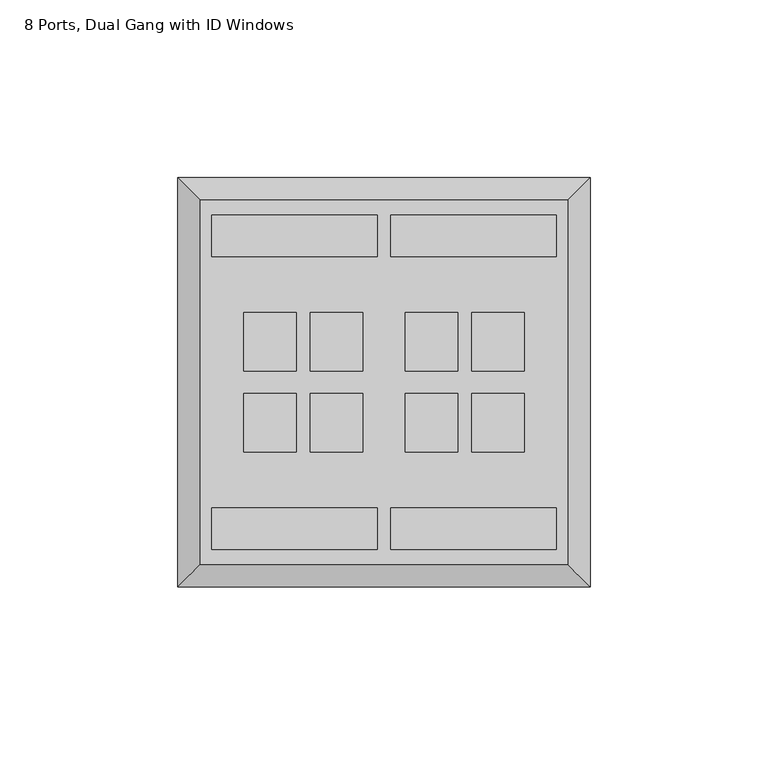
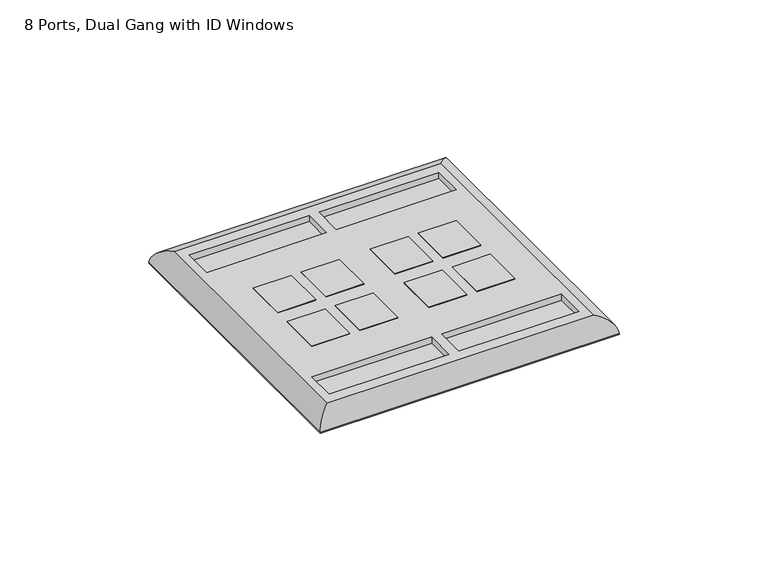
"""IFC4 building model written with IfcOpenShell, lengths in millimetres: electric appliance geometry, Data_Device-Work_Area-Leviton-QuickPort-Wallplate : 8 Ports, Dual Gang with ID Windows."""

from ifc_helpers import new_model, si_unit, frame, origin, origin_with_axes, place, context, project, spatial, polyline, ellipse_curve, outline, extrude, source, transform, mapped, element, save
from ifc_brep_helpers import plane_surface, cylinder_surface, advanced_brep


def electric_appliance_8_ports_dual_gang_with_id_windows_ed2c4f9c(model_context):
    return source(origin(), model_context, "Body", "SolidModel", [
        extrude(outline(polyline([(-29.0195, 27.813), (-29.0195, 11.303), (-43.7515, 11.303), (-43.7515, 27.813), (-29.0195, 27.813)])), origin_with_axes(), (0.0, 0.0, 1.0), 6.35),
        extrude(outline(polyline([(-29.0195, -11.43), (-43.7515, -11.43), (-43.7515, 5.08), (-29.0195, 5.08), (-29.0195, -11.43)])), origin_with_axes(), (0.0, 0.0, 1.0), 6.35),
        extrude(outline(polyline([(-2.2987, 27.813), (-2.2987, 11.303), (-17.0307, 11.303), (-17.0307, 27.813), (-2.2987, 27.813)])), origin_with_axes(), (0.0, 0.0, 1.0), 6.35),
        extrude(outline(polyline([(-2.2987, -11.43), (-17.0307, -11.43), (-17.0307, 5.08), (-2.2987, 5.08), (-2.2987, -11.43)])), origin_with_axes(), (0.0, 0.0, 1.0), 6.35),
        extrude(outline(polyline([(-47.6885, 27.813), (-47.6885, 11.303), (-62.4205, 11.303), (-62.4205, 27.813), (-47.6885, 27.813)])), origin_with_axes(), (0.0, 0.0, 1.0), 6.35),
        extrude(outline(polyline([(-47.6885, -11.43), (-62.4205, -11.43), (-62.4205, 5.08), (-47.6885, 5.08), (-47.6885, -11.43)])), origin_with_axes(), (0.0, 0.0, 1.0), 6.35),
        extrude(outline(polyline([(16.3703, 27.813), (16.3703, 11.303), (1.6383, 11.303), (1.6383, 27.813), (16.3703, 27.813)])), origin_with_axes(), (0.0, 0.0, 1.0), 6.35),
        extrude(outline(polyline([(16.3703, -11.43), (1.6383, -11.43), (1.6383, 5.08), (16.3703, 5.08), (16.3703, -11.43)])), origin_with_axes(), (0.0, 0.0, 1.0), 6.35),
        advanced_brep(
        [(28.575, -42.9895, 6.35), (28.575, 59.3725, 6.35), (-74.6252, 59.3725, 6.35), (-74.6252, -42.9895, 6.35), (-71.44004, 55.1815, 6.35), (-24.95804, 55.1815, 6.35), (-24.95804, 43.4975, 6.35), (-71.44004, 43.4975, 6.35), (-21.09216, 43.4975, 6.35), (-21.09216, 55.1815, 6.35), (25.38984, 55.1815, 6.35), (25.38984, 43.4975, 6.35), (-43.7515, 27.813, 6.35), (-29.0195, 27.813, 6.35), (-29.0195, 11.303, 6.35), (-43.7515, 11.303, 6.35), (-43.7515, 5.08, 6.35), (-29.0195, 5.08, 6.35), (-29.0195, -11.43, 6.35), (-43.7515, -11.43, 6.35), (-17.0307, 27.813, 6.35), (-2.2987, 27.813, 6.35), (-2.2987, 11.303, 6.35), (-17.0307, 11.303, 6.35), (-17.0307, 5.08, 6.35), (-2.2987, 5.08, 6.35), (-2.2987, -11.43, 6.35), (-17.0307, -11.43, 6.35), (-62.4205, 27.813, 6.35), (-47.6885, 27.813, 6.35), (-47.6885, 11.303, 6.35), (-62.4205, 11.303, 6.35), (-62.4205, 5.08, 6.35), (-47.6885, 5.08, 6.35), (-47.6885, -11.43, 6.35), (-62.4205, -11.43, 6.35), (1.6383, 27.813, 6.35), (16.3703, 27.813, 6.35), (16.3703, 11.303, 6.35), (1.6383, 11.303, 6.35), (1.6383, 5.08, 6.35), (16.3703, 5.08, 6.35), (16.3703, -11.43, 6.35), (1.6383, -11.43, 6.35), (-71.44004, -27.1145, 6.35), (-24.95804, -27.1145, 6.35), (-24.95804, -38.7985, 6.35), (-71.44004, -38.7985, 6.35), (-21.09216, -27.1145, 6.35), (25.38984, -27.1145, 6.35), (25.38984, -38.7985, 6.35), (-21.09216, -38.7985, 6.35), (34.925, 65.7225, 0.0), (34.925, -49.3395, 0.0), (-80.9752, -49.3395, 0.0), (-80.9752, 65.7225, 0.0), (-29.0195, 27.813, 0.0), (-43.7515, 27.813, 0.0), (-43.7515, 11.303, 0.0), (-29.0195, 11.303, 0.0), (-29.0195, 5.08, 0.0), (-43.7515, 5.08, 0.0), (-43.7515, -11.43, 0.0), (-29.0195, -11.43, 0.0), (-2.2987, 27.813, 0.0), (-17.0307, 27.813, 0.0), (-17.0307, 11.303, 0.0), (-2.2987, 11.303, 0.0), (-2.2987, 5.08, 0.0), (-17.0307, 5.08, 0.0), (-17.0307, -11.43, 0.0), (-2.2987, -11.43, 0.0), (-47.6885, 27.813, 0.0), (-62.4205, 27.813, 0.0), (-62.4205, 11.303, 0.0), (-47.6885, 11.303, 0.0), (-47.6885, 5.08, 0.0), (-62.4205, 5.08, 0.0), (-62.4205, -11.43, 0.0), (-47.6885, -11.43, 0.0), (16.3703, 27.813, 0.0), (1.6383, 27.813, 0.0), (1.6383, 11.303, 0.0), (16.3703, 11.303, 0.0), (16.3703, 5.08, 0.0), (1.6383, 5.08, 0.0), (1.6383, -11.43, 0.0), (16.3703, -11.43, 0.0), (-80.9752, 65.7225, 0.254), (34.925, 65.7225, 0.254), (-80.9752, -49.3395, 0.254), (34.925, -49.3395, 0.254), (-24.95804, 55.1815, 3.81), (-71.44004, 55.1815, 3.81), (-71.44004, 43.4975, 3.81), (-24.95804, 43.4975, 3.81), (-21.09216, 55.1815, 3.81), (-21.09216, 43.4975, 3.81), (25.38984, 43.4975, 3.81), (25.38984, 55.1815, 3.81), (-24.95804, -27.1145, 3.81), (-71.44004, -27.1145, 3.81), (-71.44004, -38.7985, 3.81), (-24.95804, -38.7985, 3.81), (25.38984, -27.1145, 3.81), (-21.09216, -27.1145, 3.81), (-21.09216, -38.7985, 3.81), (25.38984, -38.7985, 3.81)],
        [
            (0, 1),
            (1, 2),
            (2, 3),
            (3, 0),
            (4, 5),
            (5, 6),
            (6, 7),
            (7, 4),
            (8, 9),
            (9, 10),
            (10, 11),
            (11, 8),
            (12, 13),
            (13, 14),
            (14, 15),
            (15, 12),
            (16, 17),
            (17, 18),
            (18, 19),
            (19, 16),
            (20, 21),
            (21, 22),
            (22, 23),
            (23, 20),
            (24, 25),
            (25, 26),
            (26, 27),
            (27, 24),
            (28, 29),
            (29, 30),
            (30, 31),
            (31, 28),
            (32, 33),
            (33, 34),
            (34, 35),
            (35, 32),
            (36, 37),
            (37, 38),
            (38, 39),
            (39, 36),
            (40, 41),
            (41, 42),
            (42, 43),
            (43, 40),
            (44, 45),
            (45, 46),
            (46, 47),
            (47, 44),
            (48, 49),
            (49, 50),
            (50, 51),
            (51, 48),
            (52, 53),
            (53, 54),
            (54, 55),
            (55, 52),
            (56, 57),
            (57, 58),
            (58, 59),
            (59, 56),
            (60, 61),
            (61, 62),
            (62, 63),
            (63, 60),
            (64, 65),
            (65, 66),
            (66, 67),
            (67, 64),
            (68, 69),
            (69, 70),
            (70, 71),
            (71, 68),
            (72, 73),
            (73, 74),
            (74, 75),
            (75, 72),
            (76, 77),
            (77, 78),
            (78, 79),
            (79, 76),
            (80, 81),
            (81, 82),
            (82, 83),
            (83, 80),
            (84, 85),
            (85, 86),
            (86, 87),
            (87, 84),
            (55, 88),
            (88, 89),
            (89, 52),
            (54, 90),
            (90, 88),
            (53, 91),
            (91, 90),
            (89, 91),
            (92, 93),
            (93, 94),
            (94, 95),
            (95, 92),
            (96, 97),
            (97, 98),
            (98, 99),
            (99, 96),
            (92, 5),
            (4, 93),
            (7, 94),
            (6, 95),
            (96, 9),
            (8, 97),
            (11, 98),
            (10, 99),
            (12, 57),
            (56, 13),
            (15, 58),
            (14, 59),
            (16, 61),
            (60, 17),
            (19, 62),
            (18, 63),
            (20, 65),
            (64, 21),
            (23, 66),
            (22, 67),
            (24, 69),
            (68, 25),
            (27, 70),
            (26, 71),
            (28, 73),
            (72, 29),
            (75, 30),
            (74, 31),
            (32, 77),
            (76, 33),
            (79, 34),
            (78, 35),
            (36, 81),
            (80, 37),
            (83, 38),
            (82, 39),
            (40, 85),
            (84, 41),
            (87, 42),
            (86, 43),
            (100, 101),
            (101, 102),
            (102, 103),
            (103, 100),
            (104, 105),
            (105, 106),
            (106, 107),
            (107, 104),
            (100, 45),
            (44, 101),
            (47, 102),
            (46, 103),
            (104, 49),
            (48, 105),
            (51, 106),
            (50, 107),
            (0, 91, ellipse_curve(frame((28.575, -42.9895, -0.0052917), z_axis=(0.7071067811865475, 0.7071067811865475, 0.0), x_axis=(0.7071067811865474, -0.7071067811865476, 0.0)), 8.9877397, 6.3552917)),
            (89, 1, ellipse_curve(frame((28.575, 59.3725, -0.0052917), z_axis=(0.7071067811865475, -0.7071067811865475, 0.0), x_axis=(-0.7071067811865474, -0.7071067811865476, 0.0)), 8.9877397, 6.3552917)),
            (3, 90, ellipse_curve(frame((-74.6252, -42.9895, -0.0052917), z_axis=(0.7071067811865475, -0.7071067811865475, 0.0), x_axis=(-0.7071067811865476, -0.7071067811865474, 0.0)), 8.9877397, 6.3552917)),
            (2, 88, ellipse_curve(frame((-74.6252, 59.3725, -0.0052917), z_axis=(-0.7071067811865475, -0.7071067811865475, 0.0), x_axis=(-0.7071067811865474, 0.7071067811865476, 0.0)), 8.9877397, 6.3552917)),
        ],
        [
            plane_surface(frame((-80.9752, 65.7225, 6.35), z_axis=(0.0, 0.0, 1.0), x_axis=(-1.0, 0.0, 0.0))),
            plane_surface(frame((-80.9752, 65.7225, 0.0), z_axis=(0.0, 0.0, -1.0), x_axis=(1.0, 0.0, 0.0))),
            plane_surface(frame((34.925, 65.7225, 6.35), z_axis=(0.0, 1.0, 0.0), x_axis=(0.0, 0.0, -1.0))),
            plane_surface(frame((-80.9752, 65.7225, 6.35), z_axis=(-1.0, 0.0, 0.0), x_axis=(0.0, 0.0, -1.0))),
            plane_surface(frame((-80.9752, -49.3395, 6.35), z_axis=(0.0, -1.0, 0.0), x_axis=(0.0, 0.0, -1.0))),
            plane_surface(frame((34.925, -49.3395, 6.35), z_axis=(1.0, 0.0, 0.0), x_axis=(0.0, 0.0, -1.0))),
            plane_surface(frame((-71.44004, 55.1815, 3.81), z_axis=(0.0, 0.0, 1.0), x_axis=(1.0, 0.0, 0.0))),
            plane_surface(frame((-24.95804, 55.1815, 6.35), z_axis=(0.0, -1.0, 0.0), x_axis=(0.0, 0.0, -1.0))),
            plane_surface(frame((-71.44004, 55.1815, 6.35), z_axis=(1.0, 0.0, 0.0), x_axis=(0.0, 0.0, -1.0))),
            plane_surface(frame((-71.44004, 43.4975, 6.35), z_axis=(0.0, 1.0, 0.0), x_axis=(0.0, 0.0, -1.0))),
            plane_surface(frame((-24.95804, 43.4975, 6.35), z_axis=(-1.0, 0.0, 0.0), x_axis=(0.0, 0.0, -1.0))),
            plane_surface(frame((-21.09216, 55.1815, 6.35), z_axis=(1.0, 0.0, 0.0), x_axis=(0.0, 0.0, -1.0))),
            plane_surface(frame((-21.09216, 43.4975, 6.35), z_axis=(0.0, 1.0, 0.0), x_axis=(0.0, 0.0, -1.0))),
            plane_surface(frame((25.38984, 43.4975, 6.35), z_axis=(-1.0, 0.0, 0.0), x_axis=(0.0, 0.0, -1.0))),
            plane_surface(frame((25.38984, 55.1815, 6.35), z_axis=(0.0, -1.0, 0.0), x_axis=(0.0, 0.0, -1.0))),
            plane_surface(frame((-29.0195, 27.813, 6.35), z_axis=(0.0, -1.0, 0.0), x_axis=(0.0, 0.0, -1.0))),
            plane_surface(frame((-43.7515, 27.813, 6.35), z_axis=(1.0, 0.0, 0.0), x_axis=(0.0, 0.0, -1.0))),
            plane_surface(frame((-43.7515, 11.303, 6.35), z_axis=(0.0, 1.0, 0.0), x_axis=(0.0, 0.0, -1.0))),
            plane_surface(frame((-29.0195, 11.303, 6.35), z_axis=(-1.0, 0.0, 0.0), x_axis=(0.0, 0.0, -1.0))),
            plane_surface(frame((-29.0195, 5.08, 6.35), z_axis=(0.0, -1.0, 0.0), x_axis=(0.0, 0.0, -1.0))),
            plane_surface(frame((-43.7515, 5.08, 6.35), z_axis=(1.0, 0.0, 0.0), x_axis=(0.0, 0.0, -1.0))),
            plane_surface(frame((-43.7515, -11.43, 6.35), z_axis=(0.0, 1.0, 0.0), x_axis=(0.0, 0.0, -1.0))),
            plane_surface(frame((-29.0195, -11.43, 6.35), z_axis=(-1.0, 0.0, 0.0), x_axis=(0.0, 0.0, -1.0))),
            plane_surface(frame((-2.2987, 27.813, 6.35), z_axis=(0.0, -1.0, 0.0), x_axis=(0.0, 0.0, -1.0))),
            plane_surface(frame((-17.0307, 27.813, 6.35), z_axis=(1.0, 0.0, 0.0), x_axis=(0.0, 0.0, -1.0))),
            plane_surface(frame((-17.0307, 11.303, 6.35), z_axis=(0.0, 1.0, 0.0), x_axis=(0.0, 0.0, -1.0))),
            plane_surface(frame((-2.2987, 11.303, 6.35), z_axis=(-1.0, 0.0, 0.0), x_axis=(0.0, 0.0, -1.0))),
            plane_surface(frame((-2.2987, 5.08, 6.35), z_axis=(0.0, -1.0, 0.0), x_axis=(0.0, 0.0, -1.0))),
            plane_surface(frame((-17.0307, 5.08, 6.35), z_axis=(1.0, 0.0, 0.0), x_axis=(0.0, 0.0, -1.0))),
            plane_surface(frame((-17.0307, -11.43, 6.35), z_axis=(0.0, 1.0, 0.0), x_axis=(0.0, 0.0, -1.0))),
            plane_surface(frame((-2.2987, -11.43, 6.35), z_axis=(-1.0, 0.0, 0.0), x_axis=(0.0, 0.0, -1.0))),
            plane_surface(frame((-47.6885, 27.813, 6.35), z_axis=(0.0, -1.0, 0.0), x_axis=(0.0, 0.0, -1.0))),
            plane_surface(frame((-47.6885, 11.303, 6.35), z_axis=(-1.0, 0.0, 0.0), x_axis=(0.0, 0.0, -1.0))),
            plane_surface(frame((-62.4205, 11.303, 6.35), z_axis=(0.0, 1.0, 0.0), x_axis=(0.0, 0.0, -1.0))),
            plane_surface(frame((-62.4205, 27.813, 6.35), z_axis=(1.0, 0.0, 0.0), x_axis=(0.0, 0.0, -1.0))),
            plane_surface(frame((-47.6885, 5.08, 6.35), z_axis=(0.0, -1.0, 0.0), x_axis=(0.0, 0.0, -1.0))),
            plane_surface(frame((-47.6885, -11.43, 6.35), z_axis=(-1.0, 0.0, 0.0), x_axis=(0.0, 0.0, -1.0))),
            plane_surface(frame((-62.4205, -11.43, 6.35), z_axis=(0.0, 1.0, 0.0), x_axis=(0.0, 0.0, -1.0))),
            plane_surface(frame((-62.4205, 5.08, 6.35), z_axis=(1.0, 0.0, 0.0), x_axis=(0.0, 0.0, -1.0))),
            plane_surface(frame((16.3703, 27.813, 6.35), z_axis=(0.0, -1.0, 0.0), x_axis=(0.0, 0.0, -1.0))),
            plane_surface(frame((16.3703, 11.303, 6.35), z_axis=(-1.0, 0.0, 0.0), x_axis=(0.0, 0.0, -1.0))),
            plane_surface(frame((1.6383, 11.303, 6.35), z_axis=(0.0, 1.0, 0.0), x_axis=(0.0, 0.0, -1.0))),
            plane_surface(frame((1.6383, 27.813, 6.35), z_axis=(1.0, 0.0, 0.0), x_axis=(0.0, 0.0, -1.0))),
            plane_surface(frame((16.3703, 5.08, 6.35), z_axis=(0.0, -1.0, 0.0), x_axis=(0.0, 0.0, -1.0))),
            plane_surface(frame((16.3703, -11.43, 6.35), z_axis=(-1.0, 0.0, 0.0), x_axis=(0.0, 0.0, -1.0))),
            plane_surface(frame((1.6383, -11.43, 6.35), z_axis=(0.0, 1.0, 0.0), x_axis=(0.0, 0.0, -1.0))),
            plane_surface(frame((1.6383, 5.08, 6.35), z_axis=(1.0, 0.0, 0.0), x_axis=(0.0, 0.0, -1.0))),
            plane_surface(frame((-71.44004, -27.1145, 3.81), z_axis=(0.0, 0.0, 1.0), x_axis=(1.0, 0.0, 0.0))),
            plane_surface(frame((-24.95804, -27.1145, 6.35), z_axis=(0.0, -1.0, 0.0), x_axis=(0.0, 0.0, -1.0))),
            plane_surface(frame((-71.44004, -27.1145, 6.35), z_axis=(1.0, 0.0, 0.0), x_axis=(0.0, 0.0, -1.0))),
            plane_surface(frame((-71.44004, -38.7985, 6.35), z_axis=(0.0, 1.0, 0.0), x_axis=(0.0, 0.0, -1.0))),
            plane_surface(frame((-24.95804, -38.7985, 6.35), z_axis=(-1.0, 0.0, 0.0), x_axis=(0.0, 0.0, -1.0))),
            plane_surface(frame((25.38984, -27.1145, 6.35), z_axis=(0.0, -1.0, 0.0), x_axis=(0.0, 0.0, -1.0))),
            plane_surface(frame((-21.09216, -27.1145, 6.35), z_axis=(1.0, 0.0, 0.0), x_axis=(0.0, 0.0, -1.0))),
            plane_surface(frame((-21.09216, -38.7985, 6.35), z_axis=(0.0, 1.0, 0.0), x_axis=(0.0, 0.0, -1.0))),
            plane_surface(frame((25.38984, -38.7985, 6.35), z_axis=(-1.0, 0.0, 0.0), x_axis=(0.0, 0.0, -1.0))),
            cylinder_surface(frame((28.575, 65.7225, -0.0052917), z_axis=(0.0, -1.0, 0.0), x_axis=(1.0, 0.0, 0.0)), 6.3552917),
            cylinder_surface(frame((34.925, -42.9895, -0.0052917), z_axis=(-1.0, 0.0, 0.0), x_axis=(0.0, -1.0, 0.0)), 6.3552917),
            cylinder_surface(frame((-74.6252, -49.3395, -0.0052917), z_axis=(0.0, 1.0, 0.0), x_axis=(-1.0, 0.0, 0.0)), 6.3552917),
            cylinder_surface(frame((-80.9752, 59.3725, -0.0052917), z_axis=(1.0, 0.0, 0.0), x_axis=(0.0, 1.0, 0.0)), 6.3552917),
        ],
        [
            (0, [[1, 2, 3, 4], [5, 6, 7, 8], [9, 10, 11, 12], [13, 14, 15, 16], [17, 18, 19, 20], [21, 22, 23, 24], [25, 26, 27, 28], [29, 30, 31, 32], [33, 34, 35, 36], [37, 38, 39, 40], [41, 42, 43, 44], [45, 46, 47, 48], [49, 50, 51, 52]]),
            (1, [[53, 54, 55, 56], [57, 58, 59, 60], [61, 62, 63, 64], [65, 66, 67, 68], [69, 70, 71, 72], [73, 74, 75, 76], [77, 78, 79, 80], [81, 82, 83, 84], [85, 86, 87, 88]]),
            (2, [[-56, 89, 90, 91]]),
            (3, [[-55, 92, 93, -89]]),
            (4, [[-54, 94, 95, -92]]),
            (5, [[-53, -91, 96, -94]]),
            (6, [[97, 98, 99, 100]]),
            (6, [[101, 102, 103, 104]]),
            (7, [[-97, 105, -5, 106]]),
            (8, [[-98, -106, -8, 107]]),
            (9, [[-99, -107, -7, 108]]),
            (10, [[-100, -108, -6, -105]]),
            (11, [[-101, 109, -9, 110]]),
            (12, [[-102, -110, -12, 111]]),
            (13, [[-103, -111, -11, 112]]),
            (14, [[-104, -112, -10, -109]]),
            (15, [[113, -57, 114, -13]]),
            (16, [[-113, -16, 115, -58]]),
            (17, [[-115, -15, 116, -59]]),
            (18, [[-114, -60, -116, -14]]),
            (19, [[117, -61, 118, -17]]),
            (20, [[-117, -20, 119, -62]]),
            (21, [[-119, -19, 120, -63]]),
            (22, [[-118, -64, -120, -18]]),
            (23, [[121, -65, 122, -21]]),
            (24, [[-121, -24, 123, -66]]),
            (25, [[-123, -23, 124, -67]]),
            (26, [[-122, -68, -124, -22]]),
            (27, [[125, -69, 126, -25]]),
            (28, [[-125, -28, 127, -70]]),
            (29, [[-127, -27, 128, -71]]),
            (30, [[-126, -72, -128, -26]]),
            (31, [[129, -73, 130, -29]]),
            (32, [[-130, -76, 131, -30]]),
            (33, [[-131, -75, 132, -31]]),
            (34, [[-129, -32, -132, -74]]),
            (35, [[133, -77, 134, -33]]),
            (36, [[-134, -80, 135, -34]]),
            (37, [[-135, -79, 136, -35]]),
            (38, [[-133, -36, -136, -78]]),
            (39, [[137, -81, 138, -37]]),
            (40, [[-138, -84, 139, -38]]),
            (41, [[-139, -83, 140, -39]]),
            (42, [[-137, -40, -140, -82]]),
            (43, [[141, -85, 142, -41]]),
            (44, [[-142, -88, 143, -42]]),
            (45, [[-143, -87, 144, -43]]),
            (46, [[-141, -44, -144, -86]]),
            (47, [[145, 146, 147, 148]]),
            (47, [[149, 150, 151, 152]]),
            (48, [[-145, 153, -45, 154]]),
            (49, [[-146, -154, -48, 155]]),
            (50, [[-147, -155, -47, 156]]),
            (51, [[-148, -156, -46, -153]]),
            (52, [[-149, 157, -49, 158]]),
            (53, [[-150, -158, -52, 159]]),
            (54, [[-151, -159, -51, 160]]),
            (55, [[-152, -160, -50, -157]]),
            (56, [[161, -96, 162, -1]]),
            (57, [[-161, -4, 163, -95]]),
            (58, [[-163, -3, 164, -93]]),
            (59, [[-162, -90, -164, -2]]),
        ],
    ),
        extrude(outline(polyline([(34.671, 65.4685), (34.671, -49.0855), (-80.7212, -49.0855), (-80.7212, 65.4685), (34.671, 65.4685)]), holes=[polyline([(-29.0195, 27.813), (-43.7515, 27.813), (-43.7515, 11.303), (-29.0195, 11.303), (-29.0195, 27.813)]), polyline([(-29.0195, 5.08), (-43.7515, 5.08), (-43.7515, -11.43), (-29.0195, -11.43), (-29.0195, 5.08)]), polyline([(-2.2987, 27.813), (-17.0307, 27.813), (-17.0307, 11.303), (-2.2987, 11.303), (-2.2987, 27.813)]), polyline([(-2.2987, 5.08), (-17.0307, 5.08), (-17.0307, -11.43), (-2.2987, -11.43), (-2.2987, 5.08)]), polyline([(-47.6885, 27.813), (-62.4205, 27.813), (-62.4205, 11.303), (-47.6885, 11.303), (-47.6885, 27.813)]), polyline([(-47.6885, 5.08), (-62.4205, 5.08), (-62.4205, -11.43), (-47.6885, -11.43), (-47.6885, 5.08)]), polyline([(16.3703, 27.813), (1.6383, 27.813), (1.6383, 11.303), (16.3703, 11.303), (16.3703, 27.813)]), polyline([(16.3703, 5.08), (1.6383, 5.08), (1.6383, -11.43), (16.3703, -11.43), (16.3703, 5.08)])]), origin_with_axes(), (0.0, 0.0, 1.0), 0.254),
    ])


if __name__ == "__main__":
    model = new_model("IFC4")
    model_context = context("Model", 3, world=origin())
    ifc_project = project(units=[si_unit("LENGTHUNIT", "METRE", prefix="MILLI")], contexts=[model_context])
    site = spatial("IfcSite", under=ifc_project)
    building = spatial("IfcBuilding", under=site)
    placement = place(None, origin())
    electric_appliance_8_ports_dual_gang_with_id_windows_shape = electric_appliance_8_ports_dual_gang_with_id_windows_ed2c4f9c(model_context)
    element("IfcElectricAppliance", 1, ObjectType="Data_Device-Work_Area-Leviton-QuickPort-Wallplate : 8 Ports, Dual Gang with ID Windows", at=placement, inside=building, context=model_context, shape_type="MappedRepresentation", body=[
        mapped(electric_appliance_8_ports_dual_gang_with_id_windows_shape, transform((0.0, 0.0, 0.0), x_axis=(1.0, 0.0, 0.0), y_axis=(0.0, 1.0, 0.0), z_axis=(0.0, 0.0, 1.0))),
    ])
    save(model, "model.ifc")
